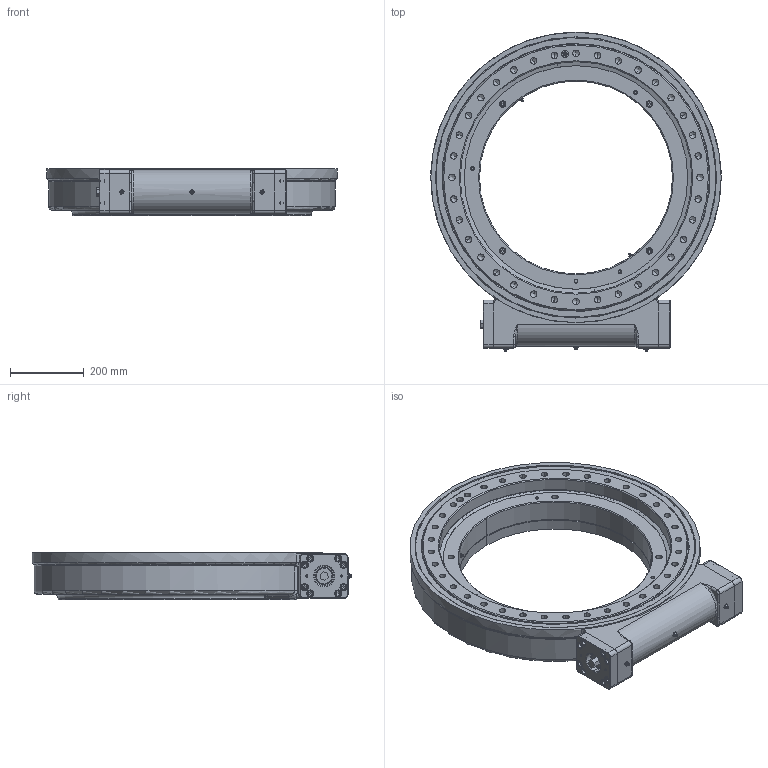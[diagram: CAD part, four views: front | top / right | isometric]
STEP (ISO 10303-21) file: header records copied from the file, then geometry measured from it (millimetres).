
FILE_DESCRIPTION (( 'STEP AP203' ), '1' );
FILE_NAME ('WEA25.STEP', '2026-03-28T08:22:16', ( 'China' ), ( 'Microsoft' ), 'SwSTEP 2.0', 'SolidWorks 2020', '' );
FILE_SCHEMA (( 'CONFIG_CONTROL_DESIGN' ));
Length unit declared in the file: millimetre
Products named in the file (1): WEA25
Bounding box: 790 x 869 x 130 mm (x, y, z)
Volume: 25306333.6 mm3; surface area: 3646015 mm2
Topology: 43 solids, 44 shells, 2834 faces, 7487 edges, 4719 vertices
Faces by surface type: cylinder 1005, cone 701, plane 615, torus 364, bspline 145, sphere 4
Entity records: 198562 total; most frequent: CARTESIAN_POINT 131760, ORIENTED_EDGE 14504, DIRECTION 13199, EDGE_CURVE 7252, AXIS2_PLACEMENT_3D 5652, VERTEX_POINT 4716, EDGE_LOOP 3330, CIRCLE 2962
